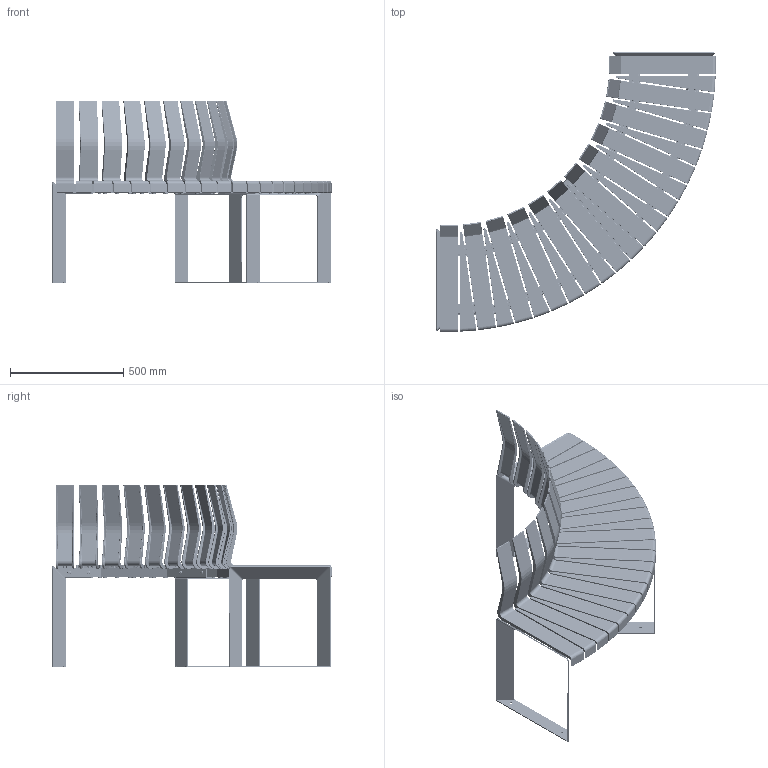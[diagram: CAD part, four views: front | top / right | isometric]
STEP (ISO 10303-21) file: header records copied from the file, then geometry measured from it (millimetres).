
FILE_DESCRIPTION(('STEP AP203'),'1');
FILE_NAME('UT80PC1250AXX + FIANCHI.stp','2026-01-19T08:26:26',(' '),(' '),'Spatial InterOp 3D',' ',' ');
FILE_SCHEMA(('CONFIG_CONTROL_DESIGN'));
Length unit declared in the file: millimetre
Products named in the file (1): UT80PC1250AXX + FIANCHI
Bounding box: 1236.59 x 1236.58 x 809.28 mm (x, y, z)
Surface area: 4472087.3 mm2 (no closed solid volume)
Topology: 0 solids, 513 shells, 5366 faces, 23386 edges, 18043 vertices
Faces by surface type: plane 2122, cylinder 2086, torus 619, bspline 473, extrusion 33, cone 33
Full cylindrical faces by diameter (mm): 6.8 x12, 8 x4, 10 x6, 13 x12, 17.5 x41, 17.8 x12, 19 x2
Entity records: 295809 total; most frequent: CARTESIAN_POINT 115028, DIRECTION 35754, ORIENTED_EDGE 32708, EDGE_CURVE 23130, VERTEX_POINT 18019, VECTOR 13598, LINE 13565, AXIS2_PLACEMENT_3D 11078
